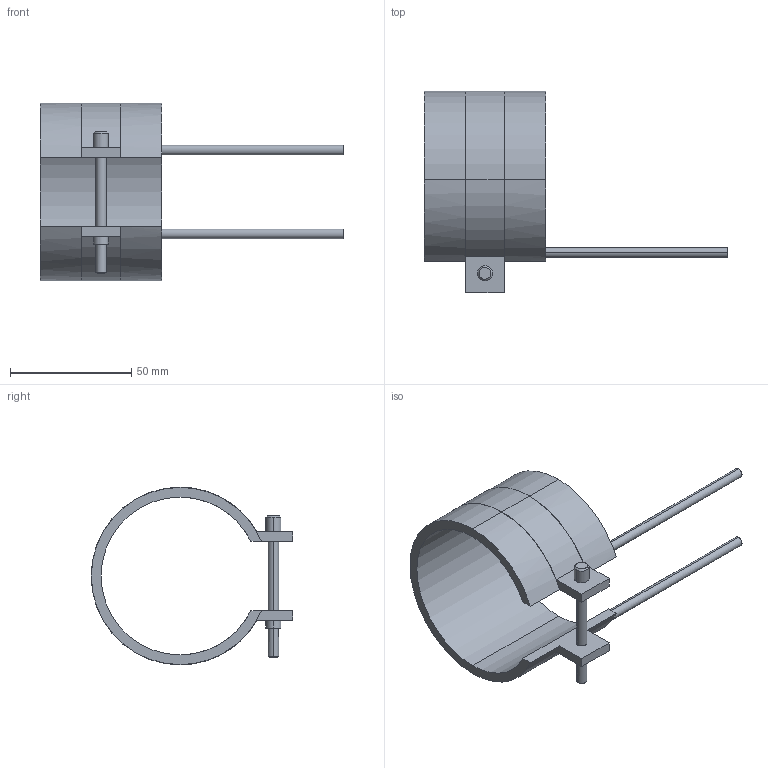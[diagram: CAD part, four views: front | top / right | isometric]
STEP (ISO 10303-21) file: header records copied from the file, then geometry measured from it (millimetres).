
FILE_DESCRIPTION(('CATIA V5 STEP Exchange'),'2;1');
FILE_NAME('C:\Users\Utente\Desktop\IO LAVORO\3D X SITO CF\X SITO\PLASTICA\RF2\14065050.stp','2021-04-03T07:19:11+00:00',('none'),('none'),'CATIA Version 5 Release 20 GA (IN-10)','CATIA V5 STEP AP203','none');
FILE_SCHEMA(('CONFIG_CONTROL_DESIGN'));
Length unit declared in the file: millimetre
Products named in the file (1): 14065050
Bounding box: 125 x 83.1 x 73.2 mm (x, y, z)
Volume: 42328.4 mm3; surface area: 24402.9 mm2
Topology: 1 solids, 1 shells, 45 faces, 116 edges, 76 vertices
Faces by surface type: cylinder 24, plane 17, cone 4
Entity records: 1406 total; most frequent: CARTESIAN_POINT 280, ORIENTED_EDGE 232, DIRECTION 196, EDGE_CURVE 116, AXIS2_PLACEMENT_3D 104, VERTEX_POINT 76, CIRCLE 62, VECTOR 52
